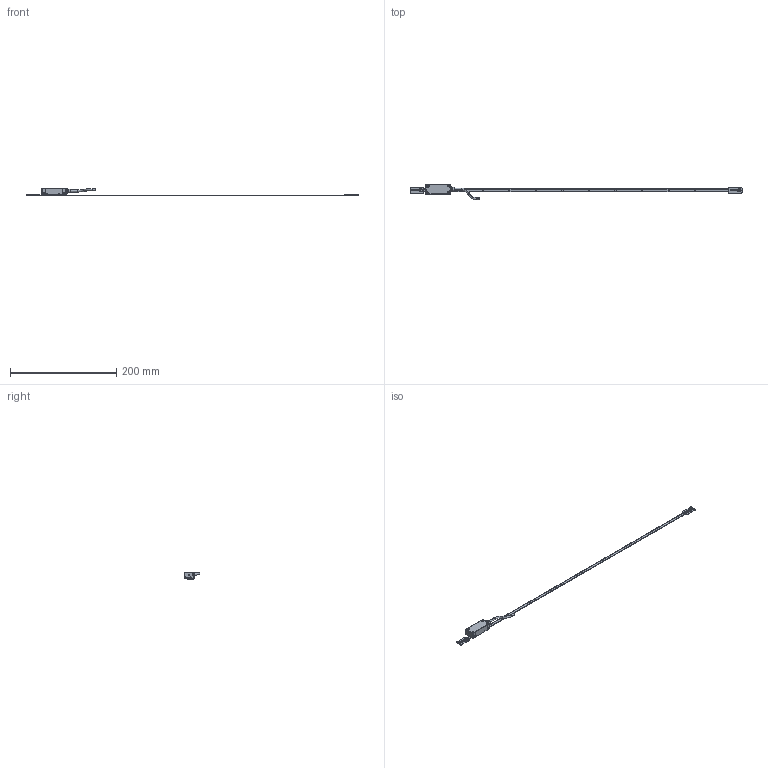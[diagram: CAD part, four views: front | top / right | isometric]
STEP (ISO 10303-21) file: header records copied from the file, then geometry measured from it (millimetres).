
FILE_DESCRIPTION(('Creo Elements/Direct Modeling STEP Export'),'2;1');
FILE_NAME('EXA-520.stp','2017-01-11T14:46:55',(''),(''),'Creo Elements/Direct Modeling STEP processor for AP214 (Solid Model)','Creo Elements/Direct Modeling 18.1H 24-Oct-2015 (C) Parametric Technology GmbH','');
FILE_SCHEMA(('AUTOMOTIVE_DESIGN { 1 0 10303 214 1 1 1 1 }'));
Length unit declared in the file: millimetre
Products named in the file (3): CABEZA_REGLA_EXPOSED; FLEJE_REGLA_EXPOSED_ADHESIVADA_520
Assembly tree (1 placements, depth 2):
  CABEZA_REGLA_EXPOSED
    CABEZA_REGLA_EXPOSED
  FLEJE_REGLA_EXPOSED_ADHESIVADA_520
Bounding box: 626 x 29.33 x 13.16 mm (x, y, z)
Volume: 13163.7 mm3; surface area: 14109.9 mm2
Topology: 2 solids, 4 shells, 1111 faces, 3164 edges, 2085 vertices
Faces by surface type: plane 978, cylinder 93, cone 32, torus 8
Entity records: 35055 total; most frequent: ORIENTED_EDGE 6320, CARTESIAN_POINT 6075, DIRECTION 5159, EDGE_CURVE 3160, VECTOR 2801, LINE 2801, VERTEX_POINT 2085, AXIS2_PLACEMENT_3D 1179
